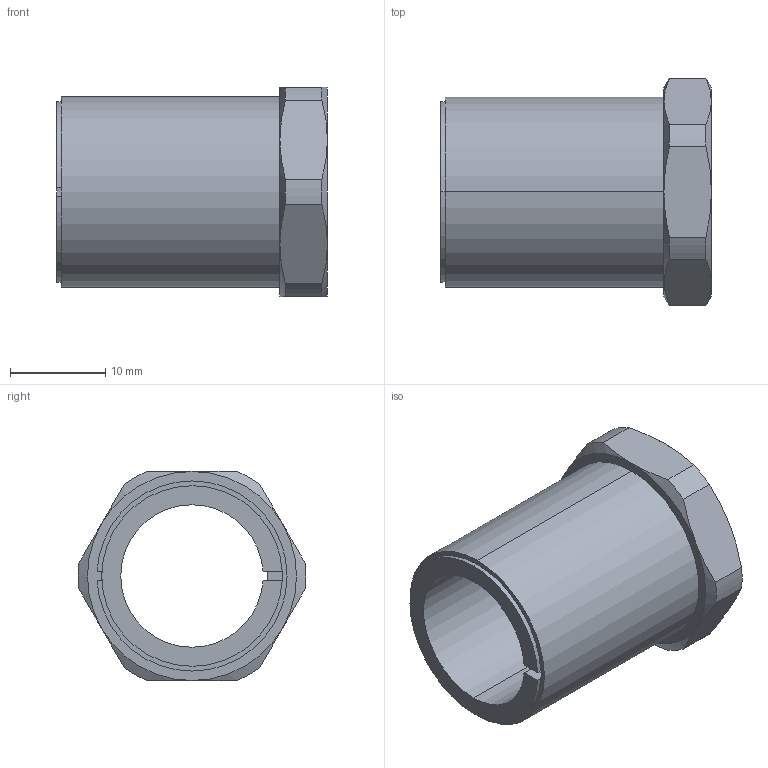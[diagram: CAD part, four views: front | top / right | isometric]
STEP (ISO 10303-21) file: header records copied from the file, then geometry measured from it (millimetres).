
FILE_DESCRIPTION (( 'STEP AP203' ), '1' );
FILE_NAME ('KBS 57 - 15 x 20.SLDPRT.STEP', '2015-07-05T18:34:14', ( '' ), ( '' ), 'SwSTEP 2.0', 'SolidWorks 2010', '' );
FILE_SCHEMA (( 'CONFIG_CONTROL_DESIGN' ));
Length unit declared in the file: millimetre
Products named in the file (1): KBS 57 - 15 x 20.SLDPRT
Bounding box: 28.5 x 23.98 x 22 mm (x, y, z)
Volume: 4304.1 mm3; surface area: 3766 mm2
Topology: 1 solids, 1 shells, 47 faces, 118 edges, 74 vertices
Faces by surface type: cylinder 16, plane 16, cone 15
Entity records: 1597 total; most frequent: CARTESIAN_POINT 396, DIRECTION 240, ORIENTED_EDGE 236, EDGE_CURVE 118, AXIS2_PLACEMENT_3D 100, VERTEX_POINT 74, CIRCLE 52, EDGE_LOOP 50
